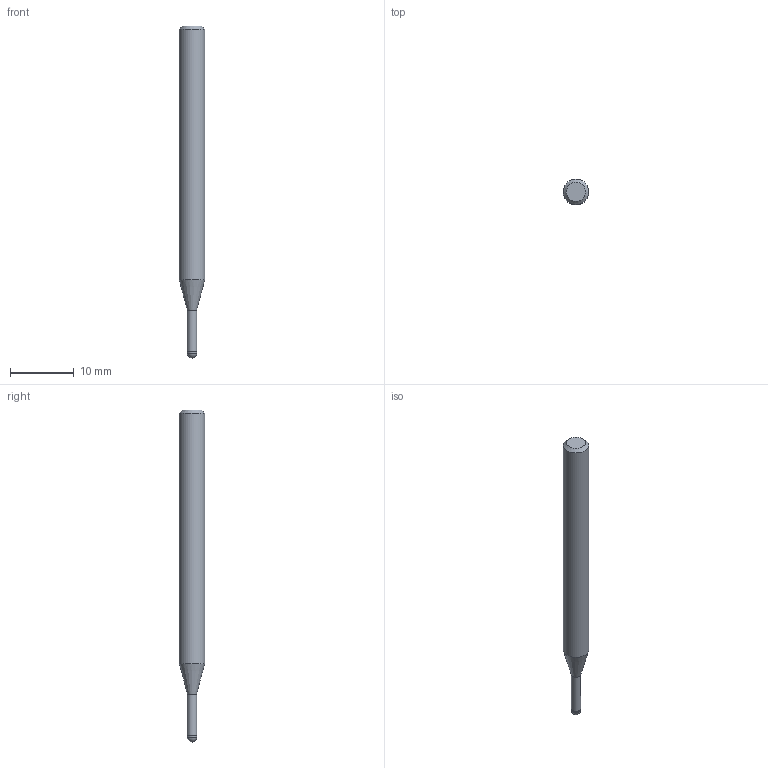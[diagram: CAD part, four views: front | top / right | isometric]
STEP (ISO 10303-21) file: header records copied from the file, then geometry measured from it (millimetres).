
FILE_DESCRIPTION((''),'2;1');
FILE_NAME('C:\Users\nsx150\AppData\Local\Temp\Mastercam 2021\LJSIDMOTM8\TEMP.step','2021-08-03T14:24:10',(''),(''),'STEP Write','Mastercam 2021 ... CNC Software, Inc.','');
FILE_SCHEMA(('AUTOMOTIVE_DESIGN'));
Length unit declared in the file: millimetre
Products named in the file (1): None
Bounding box: 4 x 4 x 52 mm (x, y, z)
Volume: 539.8 mm3; surface area: 587.9 mm2
Topology: 2 solids, 2 shells, 9 faces, 14 edges, 8 vertices
Faces by surface type: plane 3, cylinder 3, cone 2, sphere 1
Full cylindrical faces by diameter (mm): 1.45 x1, 1.5 x1, 4 x1
Entity records: 211 total; most frequent: DIRECTION 36, CARTESIAN_POINT 25, AXIS2_PLACEMENT_3D 18, ORIENTED_EDGE 14, EDGE_LOOP 14, STYLED_ITEM 12, ADVANCED_FACE 9, FACE_BOUND 8
